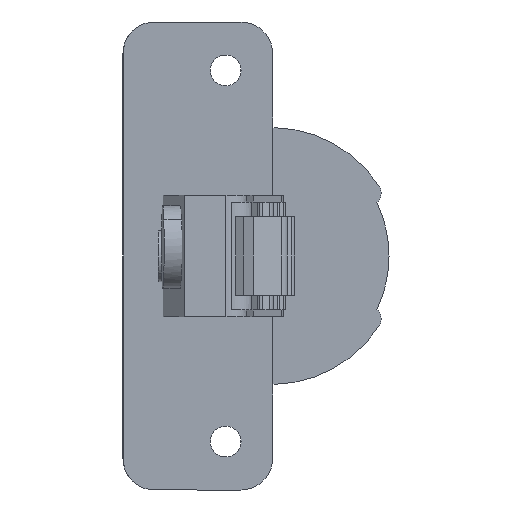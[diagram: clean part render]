
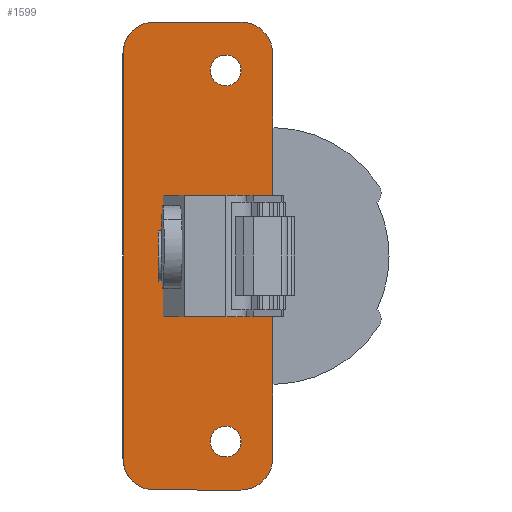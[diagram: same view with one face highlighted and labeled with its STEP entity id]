
A CAD part, left-side view. The second image highlights one B-rep face of the part: STEP entity #1599.
In plain terms, the highlighted planar face has unit normal (-1, -0.003, 0).
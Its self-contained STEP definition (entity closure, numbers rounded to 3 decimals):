
#12 = DIRECTION ( 'NONE',  ( -0.003, 1., 0. ) ) ;
#78 = DIRECTION ( 'NONE',  ( 0., 0., -1. ) ) ;
#95 = CARTESIAN_POINT ( 'NONE',  ( 27.467, 3.841, 29.1 ) ) ;
#141 = EDGE_LOOP ( 'NONE', ( #4206, #335 ) ) ;
#159 = DIRECTION ( 'NONE',  ( -1., -0.003, 0. ) ) ;
#208 = LINE ( 'NONE', #588, #4425 ) ;
#242 = DIRECTION ( 'NONE',  ( 0.003, -1., 0. ) ) ;
#252 = EDGE_CURVE ( 'NONE', #1447, #1272, #780, .T. ) ;
#264 = FACE_OUTER_BOUND ( 'NONE', #3568, .T. ) ;
#334 = DIRECTION ( 'NONE',  ( 0.003, -1., 0. ) ) ;
#335 = ORIENTED_EDGE ( 'NONE', *, *, #1884, .F. ) ;
#376 = DIRECTION ( 'NONE',  ( 0.003, -1., 0. ) ) ;
#388 = DIRECTION ( 'NONE',  ( 0., 0., -1. ) ) ;
#392 = DIRECTION ( 'NONE',  ( -1., -0.003, 0. ) ) ;
#401 = VERTEX_POINT ( 'NONE', #4011 ) ;
#402 = VERTEX_POINT ( 'NONE', #3257 ) ;
#446 = DIRECTION ( 'NONE',  ( -1., -0.003, 0. ) ) ;
#451 = LINE ( 'NONE', #1833, #4071 ) ;
#516 = VERTEX_POINT ( 'NONE', #642 ) ;
#522 = ORIENTED_EDGE ( 'NONE', *, *, #3543, .F. ) ;
#545 = EDGE_CURVE ( 'NONE', #2035, #2990, #4463, .T. ) ;
#563 = ORIENTED_EDGE ( 'NONE', *, *, #909, .F. ) ;
#584 = CIRCLE ( 'NONE', #1232, 2.15 ) ;
#588 = CARTESIAN_POINT ( 'NONE',  ( 27.489, -2.741, 29.286 ) ) ;
#606 = CARTESIAN_POINT ( 'NONE',  ( 27.467, 3.841, 26.95 ) ) ;
#636 = ORIENTED_EDGE ( 'NONE', *, *, #2435, .T. ) ;
#642 = CARTESIAN_POINT ( 'NONE',  ( 27.42, 18.223, -27.386 ) ) ;
#655 = ORIENTED_EDGE ( 'NONE', *, *, #1764, .T. ) ;
#663 = CARTESIAN_POINT ( 'NONE',  ( 27.439, 12.565, -7.55 ) ) ;
#746 = DIRECTION ( 'NONE',  ( 0., 0., 1. ) ) ;
#780 = LINE ( 'NONE', #2846, #2485 ) ;
#782 = CARTESIAN_POINT ( 'NONE',  ( 27.474, 1.704, 29.286 ) ) ;
#789 = AXIS2_PLACEMENT_3D ( 'NONE', #1445, #1510, #1847 ) ;
#825 = CARTESIAN_POINT ( 'NONE',  ( 27.42, 18.223, -27.386 ) ) ;
#870 = CARTESIAN_POINT ( 'NONE',  ( 27.489, -2.741, 29.286 ) ) ;
#882 = CARTESIAN_POINT ( 'NONE',  ( 27.435, 13.777, 29.286 ) ) ;
#909 = EDGE_CURVE ( 'NONE', #3021, #4370, #3731, .T. ) ;
#979 = CARTESIAN_POINT ( 'NONE',  ( 27.489, -2.741, -7.55 ) ) ;
#982 = CARTESIAN_POINT ( 'NONE',  ( 27.42, 18.223, 29.286 ) ) ;
#999 = PLANE ( 'NONE',  #1128 ) ;
#1019 = EDGE_CURVE ( 'NONE', #1425, #2307, #4170, .T. ) ;
#1041 = CARTESIAN_POINT ( 'NONE',  ( 27.435, 13.777, -27.386 ) ) ;
#1043 = CIRCLE ( 'NONE', #3516, 2.15 ) ;
#1056 = AXIS2_PLACEMENT_3D ( 'NONE', #1154, #3300, #1858 ) ;
#1090 = CARTESIAN_POINT ( 'NONE',  ( 27.467, 3.841, -27.2 ) ) ;
#1101 = VECTOR ( 'NONE', #376, 1000. ) ;
#1128 = AXIS2_PLACEMENT_3D ( 'NONE', #2388, #3718, #1359 ) ;
#1149 = AXIS2_PLACEMENT_3D ( 'NONE', #882, #159, #3700 ) ;
#1154 = CARTESIAN_POINT ( 'NONE',  ( 27.467, 3.841, -25.05 ) ) ;
#1232 = AXIS2_PLACEMENT_3D ( 'NONE', #1260, #1326, #1622 ) ;
#1260 = CARTESIAN_POINT ( 'NONE',  ( 27.467, 3.841, 26.95 ) ) ;
#1272 = VERTEX_POINT ( 'NONE', #2371 ) ;
#1274 = LINE ( 'NONE', #870, #3847 ) ;
#1326 = DIRECTION ( 'NONE',  ( -1., -0.003, 0. ) ) ;
#1353 = ORIENTED_EDGE ( 'NONE', *, *, #3579, .T. ) ;
#1359 = DIRECTION ( 'NONE',  ( 0., 0., 1. ) ) ;
#1364 = AXIS2_PLACEMENT_3D ( 'NONE', #3925, #446, #746 ) ;
#1425 = VERTEX_POINT ( 'NONE', #3258 ) ;
#1445 = CARTESIAN_POINT ( 'NONE',  ( 27.474, 1.704, -27.386 ) ) ;
#1447 = VERTEX_POINT ( 'NONE', #1527 ) ;
#1510 = DIRECTION ( 'NONE',  ( -1., -0.003, 0. ) ) ;
#1527 = CARTESIAN_POINT ( 'NONE',  ( 27.474, 1.704, 33.732 ) ) ;
#1599 = ADVANCED_FACE ( 'NONE', ( #2689, #2022, #264 ), #999, .T. ) ;
#1622 = DIRECTION ( 'NONE',  ( 0., 0., 1. ) ) ;
#1673 = VERTEX_POINT ( 'NONE', #982 ) ;
#1732 = EDGE_LOOP ( 'NONE', ( #1760, #3382 ) ) ;
#1760 = ORIENTED_EDGE ( 'NONE', *, *, #2871, .F. ) ;
#1764 = EDGE_CURVE ( 'NONE', #516, #2035, #2513, .T. ) ;
#1769 = DIRECTION ( 'NONE',  ( 0., 0., 1. ) ) ;
#1792 = ORIENTED_EDGE ( 'NONE', *, *, #3075, .T. ) ;
#1833 = CARTESIAN_POINT ( 'NONE',  ( 27.439, 12.565, 79.175 ) ) ;
#1838 = LINE ( 'NONE', #825, #2095 ) ;
#1847 = DIRECTION ( 'NONE',  ( 0., 0., 1. ) ) ;
#1858 = DIRECTION ( 'NONE',  ( 0., 0., 1. ) ) ;
#1884 = EDGE_CURVE ( 'NONE', #402, #3022, #3530, .T. ) ;
#2022 = FACE_BOUND ( 'NONE', #141, .T. ) ;
#2035 = VERTEX_POINT ( 'NONE', #4222 ) ;
#2037 = VECTOR ( 'NONE', #242, 1000. ) ;
#2048 = CARTESIAN_POINT ( 'NONE',  ( 27.439, 12.565, -7.55 ) ) ;
#2076 = VERTEX_POINT ( 'NONE', #95 ) ;
#2094 = VERTEX_POINT ( 'NONE', #2807 ) ;
#2095 = VECTOR ( 'NONE', #78, 1000. ) ;
#2157 = DIRECTION ( 'NONE',  ( -1., -0.003, 0. ) ) ;
#2307 = VERTEX_POINT ( 'NONE', #3401 ) ;
#2329 = EDGE_CURVE ( 'NONE', #401, #2076, #1043, .T. ) ;
#2371 = CARTESIAN_POINT ( 'NONE',  ( 27.435, 13.777, 33.732 ) ) ;
#2376 = ORIENTED_EDGE ( 'NONE', *, *, #252, .T. ) ;
#2388 = CARTESIAN_POINT ( 'NONE',  ( 27.474, 1.704, -25.586 ) ) ;
#2435 = EDGE_CURVE ( 'NONE', #3419, #1447, #4244, .T. ) ;
#2485 = VECTOR ( 'NONE', #12, 1000. ) ;
#2513 = CIRCLE ( 'NONE', #4260, 4.446 ) ;
#2594 = DIRECTION ( 'NONE',  ( 0., 0., 1. ) ) ;
#2650 = DIRECTION ( 'NONE',  ( 0., 0., 1. ) ) ;
#2657 = DIRECTION ( 'NONE',  ( 0., 0., 1. ) ) ;
#2689 = FACE_BOUND ( 'NONE', #1732, .T. ) ;
#2741 = CIRCLE ( 'NONE', #789, 4.446 ) ;
#2807 = CARTESIAN_POINT ( 'NONE',  ( 27.489, -2.741, -27.386 ) ) ;
#2846 = CARTESIAN_POINT ( 'NONE',  ( 27.435, 13.777, 33.732 ) ) ;
#2871 = EDGE_CURVE ( 'NONE', #2076, #401, #584, .T. ) ;
#2893 = CIRCLE ( 'NONE', #1364, 2.15 ) ;
#2969 = CARTESIAN_POINT ( 'NONE',  ( 27.474, 1.704, -31.832 ) ) ;
#2980 = ORIENTED_EDGE ( 'NONE', *, *, #3905, .T. ) ;
#2990 = VERTEX_POINT ( 'NONE', #2969 ) ;
#3021 = VERTEX_POINT ( 'NONE', #663 ) ;
#3022 = VERTEX_POINT ( 'NONE', #1090 ) ;
#3075 = EDGE_CURVE ( 'NONE', #1673, #516, #1838, .T. ) ;
#3112 = ORIENTED_EDGE ( 'NONE', *, *, #1019, .T. ) ;
#3115 = CIRCLE ( 'NONE', #1149, 4.446 ) ;
#3137 = CARTESIAN_POINT ( 'NONE',  ( 27.489, -2.741, 29.286 ) ) ;
#3250 = EDGE_CURVE ( 'NONE', #2307, #3419, #1274, .T. ) ;
#3257 = CARTESIAN_POINT ( 'NONE',  ( 27.467, 3.841, -22.9 ) ) ;
#3258 = CARTESIAN_POINT ( 'NONE',  ( 27.439, 12.565, 9.45 ) ) ;
#3300 = DIRECTION ( 'NONE',  ( -1., -0.003, 0. ) ) ;
#3382 = ORIENTED_EDGE ( 'NONE', *, *, #2329, .F. ) ;
#3401 = CARTESIAN_POINT ( 'NONE',  ( 27.489, -2.741, 9.45 ) ) ;
#3419 = VERTEX_POINT ( 'NONE', #3137 ) ;
#3482 = DIRECTION ( 'NONE',  ( 0., 0., 1. ) ) ;
#3485 = CARTESIAN_POINT ( 'NONE',  ( 27.439, 12.565, 9.45 ) ) ;
#3516 = AXIS2_PLACEMENT_3D ( 'NONE', #606, #3786, #2650 ) ;
#3530 = CIRCLE ( 'NONE', #1056, 2.15 ) ;
#3543 = EDGE_CURVE ( 'NONE', #1425, #3021, #451, .T. ) ;
#3568 = EDGE_LOOP ( 'NONE', ( #1353, #563, #522, #3112, #3793, #636, #2376, #4154, #1792, #655, #3664, #2980 ) ) ;
#3579 = EDGE_CURVE ( 'NONE', #2094, #4370, #208, .T. ) ;
#3664 = ORIENTED_EDGE ( 'NONE', *, *, #545, .T. ) ;
#3700 = DIRECTION ( 'NONE',  ( 0., 0., 1. ) ) ;
#3718 = DIRECTION ( 'NONE',  ( -1., -0.003, 0. ) ) ;
#3731 = LINE ( 'NONE', #2048, #4224 ) ;
#3786 = DIRECTION ( 'NONE',  ( -1., -0.003, 0. ) ) ;
#3793 = ORIENTED_EDGE ( 'NONE', *, *, #3250, .T. ) ;
#3847 = VECTOR ( 'NONE', #2594, 1000. ) ;
#3905 = EDGE_CURVE ( 'NONE', #2990, #2094, #2741, .T. ) ;
#3925 = CARTESIAN_POINT ( 'NONE',  ( 27.467, 3.841, -25.05 ) ) ;
#3939 = EDGE_CURVE ( 'NONE', #3022, #402, #2893, .T. ) ;
#4011 = CARTESIAN_POINT ( 'NONE',  ( 27.467, 3.841, 24.8 ) ) ;
#4031 = CARTESIAN_POINT ( 'NONE',  ( 27.474, 1.704, -31.832 ) ) ;
#4056 = EDGE_CURVE ( 'NONE', #1272, #1673, #3115, .T. ) ;
#4071 = VECTOR ( 'NONE', #388, 1000. ) ;
#4154 = ORIENTED_EDGE ( 'NONE', *, *, #4056, .T. ) ;
#4168 = AXIS2_PLACEMENT_3D ( 'NONE', #782, #2157, #3482 ) ;
#4170 = LINE ( 'NONE', #3485, #1101 ) ;
#4206 = ORIENTED_EDGE ( 'NONE', *, *, #3939, .F. ) ;
#4222 = CARTESIAN_POINT ( 'NONE',  ( 27.435, 13.777, -31.832 ) ) ;
#4224 = VECTOR ( 'NONE', #334, 1000. ) ;
#4244 = CIRCLE ( 'NONE', #4168, 4.446 ) ;
#4260 = AXIS2_PLACEMENT_3D ( 'NONE', #1041, #392, #1769 ) ;
#4370 = VERTEX_POINT ( 'NONE', #979 ) ;
#4425 = VECTOR ( 'NONE', #2657, 1000. ) ;
#4463 = LINE ( 'NONE', #4031, #2037 ) ;
